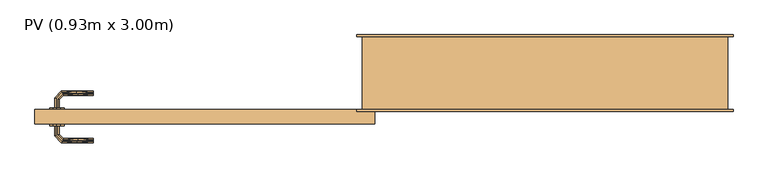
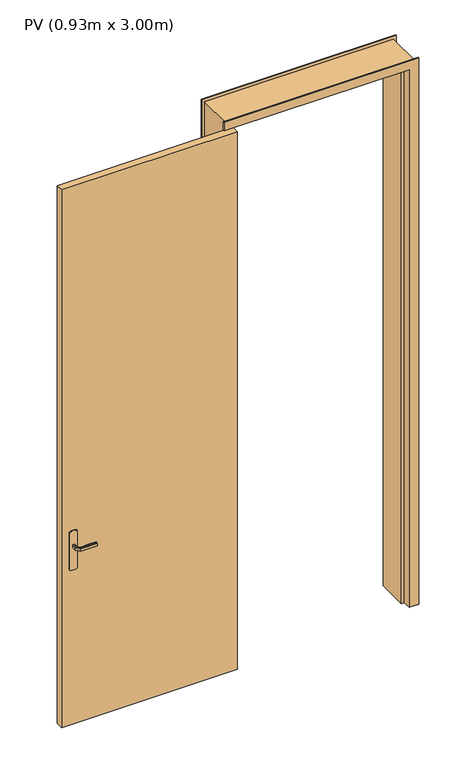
"""IFC4 building model written with IfcOpenShell, lengths in millimetres: door geometry, PV (0.93m x 3.00m)."""

from ifc_helpers import new_model, si_unit, frame, origin, origin_with_axes, place, context, project, spatial, polyline, outline, extrude, faceted_brep, source, transform, mapped, element, save


def pv_0_93m_x_3_00m_d9fa0745(model_context):
    return source(origin(), model_context, "Body", "SolidModel", [
        extrude(outline(polyline([(-825.0, -40.0), (-825.0, 0.0), (105.0, 0.0), (105.0, -40.0), (-825.0, -40.0)])), origin_with_axes(), (0.0, 0.0, 1.0), 3010.0),
        extrude(outline(polyline([(1085.3589838, -765.0), (1083.9960169, -775.3527618), (1080.0, -785.0), (870.0, -785.0), (866.0039831, -775.3527618), (864.6410162, -765.0), (866.0039831, -754.6472382), (870.0, -745.0), (1080.0, -745.0), (1083.9960169, -754.6472382), (1085.3589838, -765.0)])), frame((0.0, -45.0, 0.0), z_axis=(0.0, 1.0, 0.0), x_axis=(0.0, 0.0, 1.0)), (0.0, 0.0, 1.0), 5.0),
        faceted_brep([(-762.9747013, 5.0, 1007.7804408), (-767.0252987, 5.0, 1007.7804408), (-771.0, 5.0, 1007.0), (-771.0, 5.0, 993.0), (-767.0252987, 5.0, 992.2195592), (-762.9747013, 5.0, 992.2195592), (-759.0, 5.0, 993.0), (-759.0, 5.0, 1007.0), (-767.0252987, 31.0045755, 1007.7804408), (-771.0, 32.6509507, 1007.0), (-762.9747013, 29.3267632, 1007.7804408), (-749.2986025, 43.002862, 1007.7804408), (-750.9764148, 47.0534593, 1007.7804408), (-759.0, 27.680388, 1007.0), (-759.0, 27.680388, 993.0), (-762.9747013, 29.3267632, 992.2195592), (-767.0252987, 31.0045755, 992.2195592), (-750.9764148, 47.0534593, 992.2195592), (-749.2986025, 43.002862, 992.2195592), (-771.0, 32.6509507, 993.0), (-752.62279, 51.0281607, 1007.0), (-747.6522273, 39.0281607, 1007.0), (-747.6522273, 39.0281607, 993.0), (-752.62279, 51.0281607, 993.0), (-664.9813594, 51.0281607, 1007.0), (-664.9813594, 47.0534593, 1007.7804408), (-664.9813594, 43.002862, 1007.7804408), (-664.9813594, 39.0281607, 1007.0), (-664.9813594, 39.0281607, 993.0), (-664.9813594, 43.002862, 992.2195592), (-664.9813594, 47.0534593, 992.2195592), (-664.9813594, 51.0281607, 993.0), (-707.1399809, 45.0281607, 1007.8786868), (-712.6923028, 51.0281607, 1007.0), (-706.3167933, 39.0281607, 1007.0), (-706.3167933, 39.0281607, 993.0), (-707.1399811, 45.0281608, 992.1213132), (-712.6923104, 51.0281607, 993.0)], [[[0, 1, 2, 3, 4, 5, 6, 7]], [[2, 1, 8, 9]], [[1, 0, 10, 11, 12, 8]], [[0, 7, 13, 10]], [[14, 13, 7, 6]], [[5, 15, 14, 6]], [[5, 4, 16, 17, 18, 15]], [[3, 19, 16, 4]], [[9, 19, 3, 2]], [[9, 8, 12, 20]], [[10, 13, 21, 11]], [[22, 21, 13, 14]], [[14, 15, 18, 22]], [[16, 19, 23, 17]], [[20, 23, 19, 9]], [[24, 25, 26, 27, 28, 29, 30, 31]], [[32, 25, 33]], [[33, 25, 24]], [[33, 20, 12]], [[11, 34, 32]], [[34, 11, 21]], [[27, 26, 34]], [[32, 26, 25]], [[32, 34, 26]], [[32, 33, 12]], [[11, 32, 12]], [[21, 22, 35, 28, 27, 34]], [[36, 29, 35]], [[30, 36, 37]], [[18, 35, 22]], [[29, 28, 35]], [[30, 37, 31]], [[37, 17, 23]], [[36, 17, 37]], [[36, 18, 17]], [[36, 35, 18]], [[29, 36, 30]], [[23, 20, 33, 24, 31, 37]]]),
        faceted_brep([(1070.0, 200.0, 0.0), (1070.0, 0.0, 0.0), (1085.0, 0.0, 0.0), (1085.0, -5.0, 0.0), (1035.0, -5.0, 0.0), (1035.0, 40.0, 0.0), (1020.0, 40.0, 0.0), (1020.0, 205.0, 0.0), (1085.0, 205.0, 0.0), (1085.0, 200.0, 0.0), (1085.0, 200.0, 3060.0), (55.0, 200.0, 3060.0), (55.0, 200.0, 0.0), (70.0, 200.0, 0.0), (70.0, 200.0, 3045.0), (1070.0, 200.0, 3045.0), (1085.0, 205.0, 3060.0), (1020.0, 205.0, 2995.0), (120.0, 205.0, 2995.0), (120.0, 205.0, 0.0), (55.0, 205.0, 0.0), (55.0, 205.0, 3060.0), (1020.0, 40.0, 2995.0), (1035.0, 40.0, 3010.0), (105.0, 40.0, 3010.0), (105.0, 40.0, 0.0), (120.0, 40.0, 0.0), (120.0, 40.0, 2995.0), (1035.0, -5.0, 3010.0), (1085.0, -5.0, 3060.0), (55.0, -5.0, 3060.0), (55.0, -5.0, 0.0), (105.0, -5.0, 0.0), (105.0, -5.0, 3010.0), (1085.0, 0.0, 3060.0), (1070.0, 0.0, 3045.0), (70.0, 0.0, 3045.0), (70.0, 0.0, 0.0), (55.0, 0.0, 0.0), (55.0, 0.0, 3060.0)], [[[0, 1, 2, 3, 4, 5, 6, 7, 8, 9]], [[9, 10, 11, 12, 13, 14, 15, 0]], [[8, 16, 10, 9]], [[7, 17, 18, 19, 20, 21, 16, 8]], [[7, 6, 22, 17]], [[5, 23, 24, 25, 26, 27, 22, 6]], [[5, 4, 28, 23]], [[3, 29, 30, 31, 32, 33, 28, 4]], [[2, 34, 29, 3]], [[1, 35, 36, 37, 38, 39, 34, 2]], [[0, 15, 35, 1]], [[14, 13, 37, 36]], [[13, 12, 20, 19, 26, 25, 32, 31, 38, 37]], [[21, 20, 12, 11]], [[27, 26, 19, 18]], [[33, 32, 25, 24]], [[39, 38, 31, 30]], [[15, 14, 36, 35]], [[16, 21, 11, 10]], [[22, 27, 18, 17]], [[28, 33, 24, 23]], [[34, 39, 30, 29]]]),
        faceted_brep([(-762.9747013, -45.0, 992.2195592), (-767.0252987, -45.0, 992.2195592), (-771.0, -45.0, 993.0), (-771.0, -45.0, 1007.0), (-767.0252987, -45.0, 1007.7804408), (-762.9747013, -45.0, 1007.7804408), (-759.0, -45.0, 1007.0), (-759.0, -45.0, 993.0), (-759.0, -67.4852045, 1007.0), (-759.0, -67.4852045, 993.0), (-762.9747013, -69.1315797, 1007.7804408), (-767.0252987, -70.8093921, 1007.7804408), (-750.8389062, -86.9957845, 1007.7804408), (-749.1610938, -82.9451872, 1007.7804408), (-771.0, -72.4557673, 1007.0), (-771.0, -72.4557673, 993.0), (-767.0252987, -70.8093921, 992.2195592), (-762.9747013, -69.1315797, 992.2195592), (-749.1610938, -82.9451872, 992.2195592), (-750.8389062, -86.9957845, 992.2195592), (-747.5147186, -78.9704859, 1007.0), (-747.5147186, -78.9704859, 993.0), (-752.4852814, -90.9704859, 1007.0), (-752.4852814, -90.9704859, 993.0), (-664.9542163, -82.9451872, 1007.7804408), (-664.9542163, -86.9957845, 1007.7804408), (-664.9542163, -90.9704859, 1007.0), (-664.9542163, -90.9704859, 993.0), (-664.9542163, -86.9957845, 992.2195592), (-664.9542163, -82.9451872, 992.2195592), (-664.9542163, -78.9704859, 993.0), (-664.9542163, -78.9704859, 1007.0), (-706.2344675, -78.9704859, 1007.0), (-706.2344794, -78.9704859, 993.0), (-707.0576551, -84.9704859, 1007.8786868), (-712.5547942, -90.9704859, 1007.0), (-712.5547957, -90.9704859, 993.0), (-707.0576549, -84.9704858, 992.1213132)], [[[0, 1, 2, 3, 4, 5, 6, 7]], [[8, 9, 7, 6]], [[5, 10, 8, 6]], [[5, 4, 11, 12, 13, 10]], [[3, 14, 11, 4]], [[14, 3, 2, 15]], [[2, 1, 16, 15]], [[1, 0, 17, 18, 19, 16]], [[0, 7, 9, 17]], [[20, 21, 9, 8]], [[8, 10, 13, 20]], [[14, 22, 12, 11]], [[23, 22, 14, 15]], [[15, 16, 19, 23]], [[17, 9, 21, 18]], [[24, 25, 26, 27, 28, 29, 30, 31]], [[21, 20, 32, 31, 30, 33]], [[34, 24, 32]], [[25, 34, 35]], [[13, 32, 20]], [[24, 31, 32]], [[25, 35, 26]], [[35, 12, 22]], [[34, 12, 35]], [[34, 13, 12]], [[34, 32, 13]], [[24, 34, 25]], [[22, 23, 36, 27, 26, 35]], [[37, 28, 36]], [[36, 28, 27]], [[36, 23, 19]], [[18, 33, 37]], [[33, 18, 21]], [[30, 29, 33]], [[37, 29, 28]], [[37, 33, 29]], [[37, 36, 19]], [[18, 37, 19]]]),
        extrude(outline(polyline([(1080.0, -785.0), (870.0, -785.0), (866.0039831, -775.3527618), (864.6410162, -765.0), (866.0039831, -754.6472382), (870.0, -745.0), (1080.0, -745.0), (1083.9960169, -754.6472382), (1085.3589838, -765.0), (1083.9960169, -775.3527618), (1080.0, -785.0)])), frame((0.0, 0.0, 0.0), z_axis=(0.0, 1.0, 0.0), x_axis=(0.0, 0.0, 1.0)), (0.0, 0.0, 1.0), 5.0),
    ])


if __name__ == "__main__":
    model = new_model("IFC4")
    model_context = context("Model", 3, world=origin())
    ifc_project = project(units=[si_unit("LENGTHUNIT", "METRE", prefix="MILLI")], contexts=[model_context])
    site = spatial("IfcSite", under=ifc_project)
    building = spatial("IfcBuilding", under=site)
    placement = place(None, origin())
    pv_0_93m_x_3_00m_shape = pv_0_93m_x_3_00m_d9fa0745(model_context)
    element("IfcDoor", 1, ObjectType="PV (0.93m x 3.00m)", at=placement, inside=building, context=model_context, shape_type="MappedRepresentation", body=[
        mapped(pv_0_93m_x_3_00m_shape, transform((0.0, 0.0, 0.0), x_axis=(1.0, 0.0, 0.0), y_axis=(0.0, 1.0, 0.0), z_axis=(0.0, 0.0, 1.0))),
    ])
    save(model, "model.ifc")
